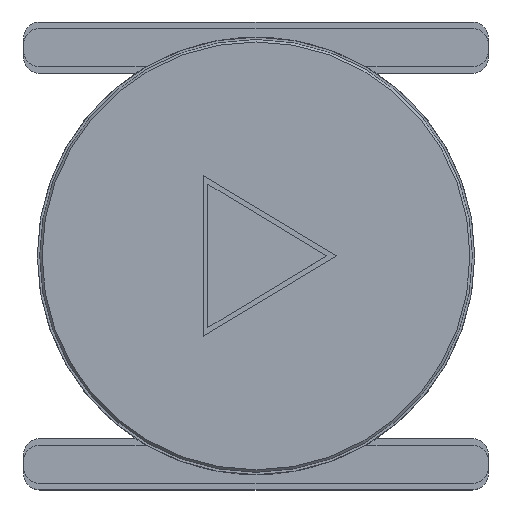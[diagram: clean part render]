
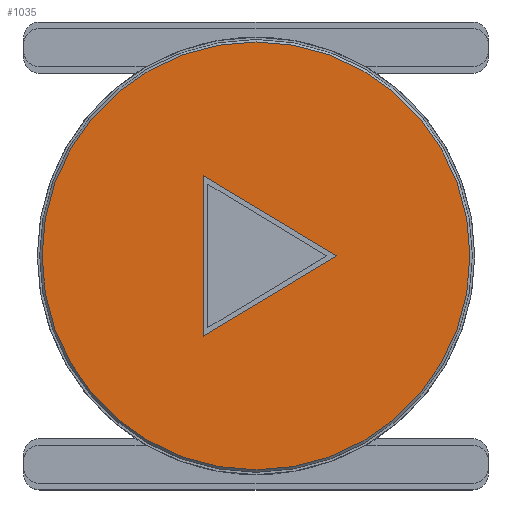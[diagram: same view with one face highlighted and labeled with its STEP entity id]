
A CAD part, top view. The second image highlights one B-rep face of the part: STEP entity #1035.
In plain terms, the highlighted planar face has unit normal (0, 0, 1).
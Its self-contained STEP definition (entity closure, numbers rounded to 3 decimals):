
#18=FACE_BOUND('',#192,.T.);
#85=CIRCLE('',#1151,13.35);
#133=FACE_OUTER_BOUND('',#191,.T.);
#191=EDGE_LOOP('',(#915));
#192=EDGE_LOOP('',(#916,#917,#918));
#286=LINE('',#1740,#388);
#287=LINE('',#1742,#389);
#288=LINE('',#1743,#390);
#388=VECTOR('',#1437,1.);
#389=VECTOR('',#1438,1.);
#390=VECTOR('',#1439,1.);
#492=VERTEX_POINT('',#1734);
#493=VERTEX_POINT('',#1738);
#494=VERTEX_POINT('',#1739);
#495=VERTEX_POINT('',#1741);
#635=EDGE_CURVE('',#492,#492,#85,.T.);
#636=EDGE_CURVE('',#493,#494,#286,.T.);
#637=EDGE_CURVE('',#494,#495,#287,.T.);
#638=EDGE_CURVE('',#495,#493,#288,.T.);
#915=ORIENTED_EDGE('',*,*,#635,.T.);
#916=ORIENTED_EDGE('',*,*,#636,.T.);
#917=ORIENTED_EDGE('',*,*,#637,.T.);
#918=ORIENTED_EDGE('',*,*,#638,.T.);
#979=PLANE('',#1152);
#1035=ADVANCED_FACE('',(#133,#18),#979,.T.);
#1151=AXIS2_PLACEMENT_3D('',#1736,#1433,#1434);
#1152=AXIS2_PLACEMENT_3D('',#1737,#1435,#1436);
#1433=DIRECTION('center_axis',(0.,0.,1.));
#1434=DIRECTION('ref_axis',(1.,0.,0.));
#1435=DIRECTION('center_axis',(0.,0.,1.));
#1436=DIRECTION('ref_axis',(1.,0.,0.));
#1437=DIRECTION('',(0.857,-0.516,0.));
#1438=DIRECTION('',(-0.857,-0.516,0.));
#1439=DIRECTION('',(0.,1.,0.));
#1734=CARTESIAN_POINT('',(-13.35,-47.,0.55));
#1736=CARTESIAN_POINT('Origin',(0.,-47.,0.55));
#1737=CARTESIAN_POINT('Origin',(0.,-47.,0.55));
#1738=CARTESIAN_POINT('',(-3.3,-42.,0.55));
#1739=CARTESIAN_POINT('',(5.,-47.,0.55));
#1740=CARTESIAN_POINT('',(3.166,-45.895,0.55));
#1741=CARTESIAN_POINT('',(-3.3,-52.,0.55));
#1742=CARTESIAN_POINT('',(-0.984,-50.605,0.55));
#1743=CARTESIAN_POINT('',(-3.3,-44.5,0.55));
